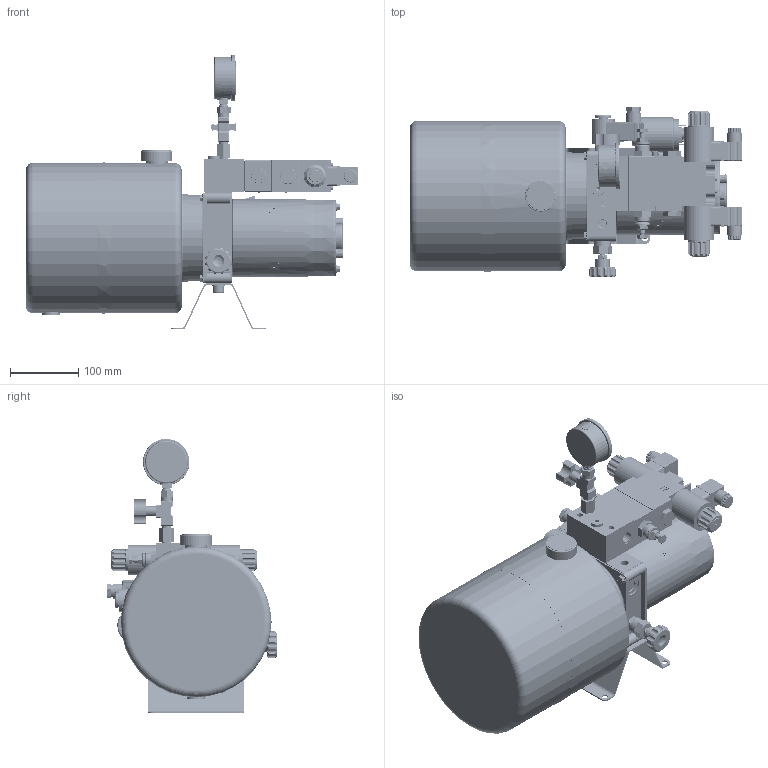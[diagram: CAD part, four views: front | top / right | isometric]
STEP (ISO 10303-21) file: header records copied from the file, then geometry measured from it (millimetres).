
FILE_DESCRIPTION(/* description */ (''),/* implementation_level */ '2;1');
FILE_NAME(/* name */ 'C:\Users\stolbov\Documents\Inventor\!Хлам\PPC-KV-SAM010-2.2DC-220-4.9.stp',/* time_stamp */ '2019-05-28T15:56:35+03:00',/* author */ ('stolbov'),/* organization */ (''),/* preprocessor_version */ 'ST-DEVELOPER v18',/* originating_system */ 'Autodesk Inventor 2020',/* authorisation */ '');
FILE_SCHEMA (('AUTOMOTIVE_DESIGN { 1 0 10303 214 3 1 1 }'));
Products named in the file (1): Деталь6
Bounding box: 486.4 x 249.48 x 401.85 mm (x, y, z)
Volume: 2799749.2 mm3; surface area: 1163357.5 mm2
Topology: 60 solids, 98 shells, 6115 faces, 16053 edges, 10647 vertices
Faces by surface type: plane 3049, cylinder 2143, cone 399, torus 257, bspline 241, sphere 26
Full cylindrical faces by diameter (mm): 0.2 x1, 1.7 x4, 2 x2, 2.459 x2, 2.52 x1, 2.6 x2, 2.667 x2, 3 x6, 3.5 x3, 4 x10, 4.134 x8, 4.14 x2, 4.48 x2, 4.917 x36, 5 x8, 5.2 x1, 5.3 x2, 5.5 x16, 6 x8, 6.025 x2, 6.3 x2, 6.42 x2, 6.5 x4, 6.647 x22, 7 x4, 7.3 x1, 7.5 x11, 7.938 x7, 8 x25, 8.2 x3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
Entity records: 235810 total; most frequent: CARTESIAN_POINT 75691, DIRECTION 32745, ORIENTED_EDGE 32002, EDGE_CURVE 16001, AXIS2_PLACEMENT_3D 12104, VERTEX_POINT 10647, LINE 8537, VECTOR 8537
